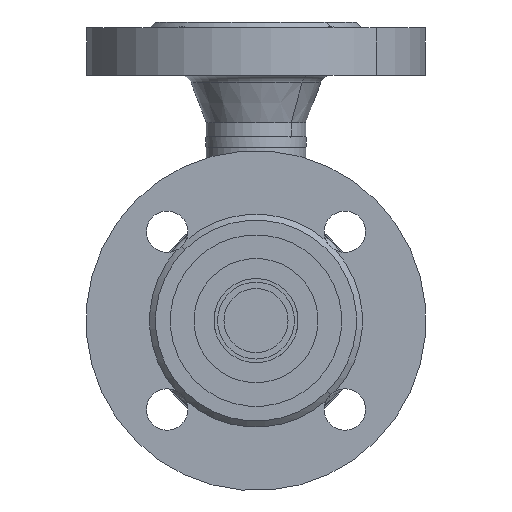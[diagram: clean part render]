
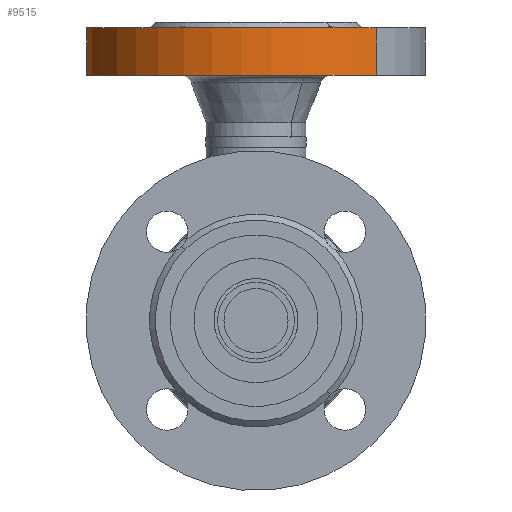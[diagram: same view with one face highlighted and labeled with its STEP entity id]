
A CAD part, front view. The second image highlights one B-rep face of the part: STEP entity #9515.
In plain terms, the highlighted cylindrical face has radius 57.5 mm (diameter 115 mm), a partial arc.
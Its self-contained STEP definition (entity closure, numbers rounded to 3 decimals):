
#17580 = EDGE_LOOP ( 'NONE', ( #10880, #5070, #4887, #3953 ) ) ;
#17952 = LINE ( 'NONE', #17953, #17954 ) ;
#17953 = CARTESIAN_POINT ( 'NONE',  ( -57.5, 75., 0. ) ) ;
#17954 = VECTOR ( 'NONE', #17955, 1000. ) ;
#17955 = DIRECTION ( 'NONE',  ( 0., 1., 0. ) ) ;
#3953 = ORIENTED_EDGE ( 'NONE', *, *, #7966, .F. ) ;
#4292 = VERTEX_POINT ( 'NONE', #11132 ) ;
#4522 = EDGE_CURVE ( 'NONE', #4292, #5399, #11798, .T. ) ;
#4887 = ORIENTED_EDGE ( 'NONE', *, *, #4522, .F. ) ;
#5070 = ORIENTED_EDGE ( 'NONE', *, *, #5627, .T. ) ;
#5399 = VERTEX_POINT ( 'NONE', #12908 ) ;
#5420 = VERTEX_POINT ( 'NONE', #12923 ) ;
#5627 = EDGE_CURVE ( 'NONE', #5420, #5399, #13128, .T. ) ;
#5646 = VERTEX_POINT ( 'NONE', #13205 ) ;
#5827 = EDGE_CURVE ( 'NONE', #5646, #5420, #13333, .T. ) ;
#7966 = EDGE_CURVE ( 'NONE', #5646, #4292, #17952, .T. ) ;
#9515 = ADVANCED_FACE ( 'NONE', ( #15721 ), #15722, .T. ) ;
#10880 = ORIENTED_EDGE ( 'NONE', *, *, #5827, .T. ) ;
#11132 = CARTESIAN_POINT ( 'NONE',  ( -57.5, 18., 0. ) ) ;
#11798 = CIRCLE ( 'NONE', #11799, 57.5 ) ;
#11799 = AXIS2_PLACEMENT_3D ( 'NONE', #11800, #11801, #11802 ) ;
#11800 = CARTESIAN_POINT ( 'NONE',  ( 0., 18., 0. ) ) ;
#11801 = DIRECTION ( 'NONE',  ( 0., 1., 0. ) ) ;
#11802 = DIRECTION ( 'NONE',  ( -1., 0., 0. ) ) ;
#12908 = CARTESIAN_POINT ( 'NONE',  ( 57.5, 18., 0. ) ) ;
#12923 = CARTESIAN_POINT ( 'NONE',  ( 57.5, 2., 0. ) ) ;
#13128 = LINE ( 'NONE', #13129, #13130 ) ;
#13129 = CARTESIAN_POINT ( 'NONE',  ( 57.5, 75., 0. ) ) ;
#13130 = VECTOR ( 'NONE', #13131, 1000. ) ;
#13131 = DIRECTION ( 'NONE',  ( 0., 1., 0. ) ) ;
#13205 = CARTESIAN_POINT ( 'NONE',  ( -57.5, 2., 0. ) ) ;
#13333 = CIRCLE ( 'NONE', #13334, 57.5 ) ;
#13334 = AXIS2_PLACEMENT_3D ( 'NONE', #13335, #13336, #13337 ) ;
#13335 = CARTESIAN_POINT ( 'NONE',  ( 0., 2., 0. ) ) ;
#13336 = DIRECTION ( 'NONE',  ( 0., 1., 0. ) ) ;
#13337 = DIRECTION ( 'NONE',  ( -1., 0., 0. ) ) ;
#15721 = FACE_OUTER_BOUND ( 'NONE', #17580, .T. ) ;
#15722 = CYLINDRICAL_SURFACE ( 'NONE', #15723, 57.5 ) ;
#15723 = AXIS2_PLACEMENT_3D ( 'NONE', #15724, #15725, #15726 ) ;
#15724 = CARTESIAN_POINT ( 'NONE',  ( 0., 75., 0. ) ) ;
#15725 = DIRECTION ( 'NONE',  ( 0., 1., 0. ) ) ;
#15726 = DIRECTION ( 'NONE',  ( -1., 0., 0. ) ) ;
